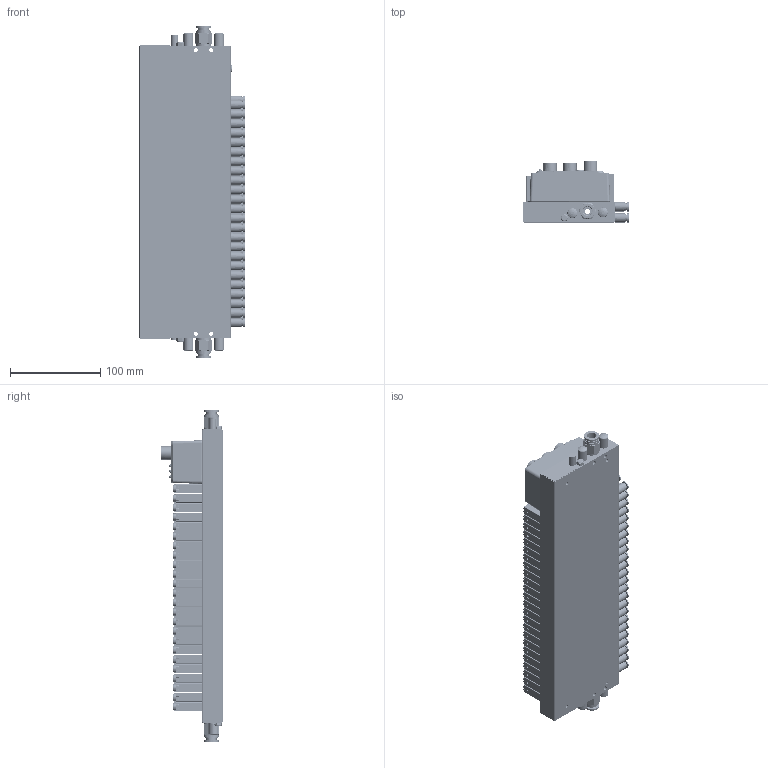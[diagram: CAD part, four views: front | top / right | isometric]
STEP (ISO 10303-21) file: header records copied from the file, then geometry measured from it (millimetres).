
FILE_DESCRIPTION(/* description */ (''),/* implementation_level */ '2;1');
FILE_NAME(/* name */ 'EV-XX-F1-24-X-XX-XX-A-X-C.stp',/* time_stamp */ '2025-10-13T14:13:57+08:00',/* author */ (''),/* organization */ (''),/* preprocessor_version */ 'ST-DEVELOPER v19.4',/* originating_system */ 'SIEMENS PLM Software NX2212.7001',/* authorisation */ '');
FILE_SCHEMA (('AUTOMOTIVE_DESIGN { 1 0 10303 214 3 1 1 1 }'));
Products named in the file (1): EV-PN-F1-H16-L-12-04-A-E-C_stp_objects
Bounding box: 116.5 x 68 x 367.6 mm (x, y, z)
Volume: 1363932.5 mm3; surface area: 477239.6 mm2
Topology: 32 solids, 50 shells, 10056 faces, 24514 edges, 15056 vertices
Faces by surface type: plane 3983, cylinder 3709, torus 1240, sphere 420, cone 374, bspline 330
Full cylindrical faces by diameter (mm): 1 x5, 1.05 x5, 1.5 x24, 1.55 x48, 1.7 x8, 2.05 x4, 2.15 x2, 2.3 x4, 2.48 x4, 2.5 x3, 2.8 x4, 3.3 x4, 3.446 x6, 3.5 x31, 3.7 x1, 4 x76, 4.134 x5, 4.3 x4, 4.5 x148, 5.1 x48, 5.3 x48, 5.4 x2, 5.5 x2, 5.917 x1, 6 x4, 7 x48, 8 x9, 8.3 x48, 8.566 x6, 9 x1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
Entity records: 349397 total; most frequent: CARTESIAN_POINT 73462, DIRECTION 49884, ORIENTED_EDGE 44540, EDGE_CURVE 22270, AXIS2_PLACEMENT_3D 19502, VERTEX_POINT 14424, EDGE_LOOP 12600, LINE 10880
